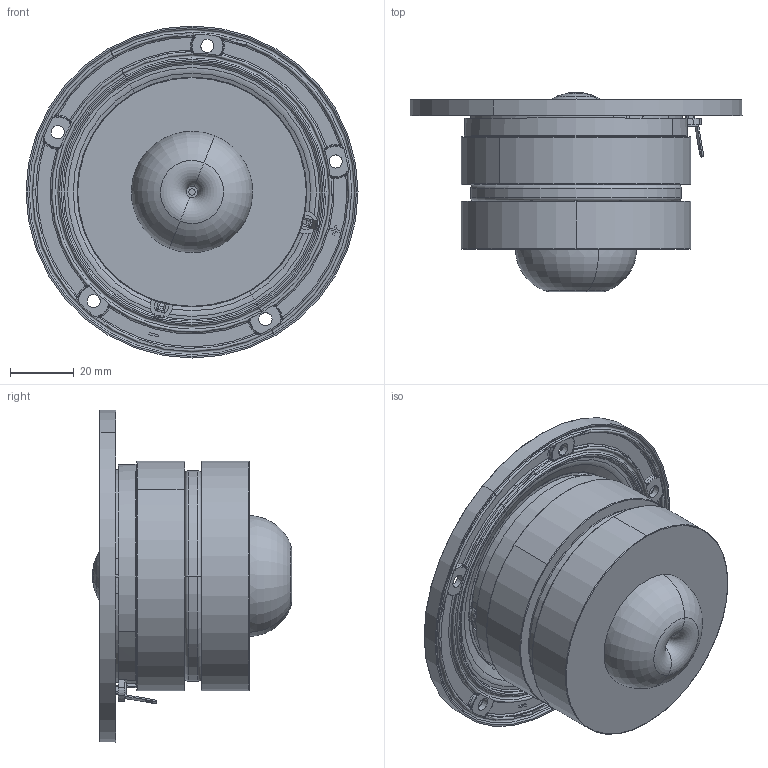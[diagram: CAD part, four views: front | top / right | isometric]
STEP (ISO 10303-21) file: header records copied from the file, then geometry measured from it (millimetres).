
FILE_DESCRIPTION (( 'STEP AP214' ), '1' );
FILE_NAME ('D2604-833000.STEP', '2020-10-22T06:10:31', ( '' ), ( '' ), 'SwSTEP 2.0', 'SolidWorks 2019', '' );
FILE_SCHEMA (( 'AUTOMOTIVE_DESIGN' ));
Length unit declared in the file: millimetre
Products named in the file (1): D2604-833000
Bounding box: 104 x 62.51 x 104 mm (x, y, z)
Volume: 206443.8 mm3; surface area: 37543 mm2
Topology: 1 solids, 7 shells, 642 faces, 1626 edges, 1010 vertices
Faces by surface type: plane 149, bspline 140, torus 118, cylinder 113, cone 98, sphere 24
Entity records: 34782 total; most frequent: CARTESIAN_POINT 13422, ORIENTED_EDGE 3236, DIRECTION 2948, EDGE_CURVE 1618, AXIS2_PLACEMENT_3D 1281, VERTEX_POINT 1010, CIRCLE 778, EDGE_LOOP 692
